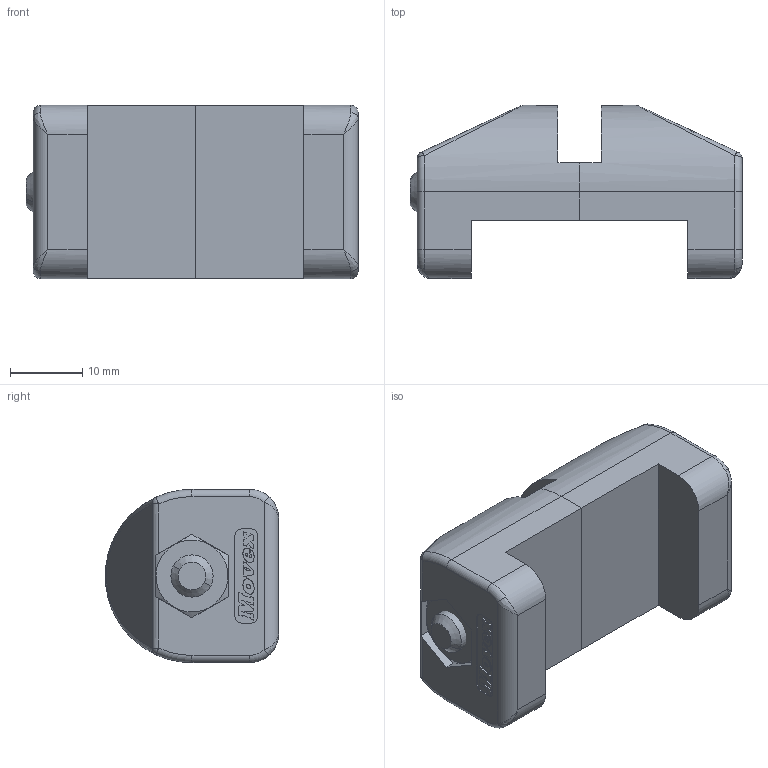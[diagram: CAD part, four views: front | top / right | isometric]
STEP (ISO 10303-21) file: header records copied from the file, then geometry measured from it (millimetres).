
FILE_DESCRIPTION(('CATIA V5 STEP Exchange'),'2;1');
FILE_NAME('X:\CODICI MOVEX\3D per clienti\3D definitivi\Part 400\P42106_01.stp','2016-06-06T11:50:58+00:00',('none'),('none'),'Version 5-6 Release 2012','CATIA V5 STEP AP203','none');
FILE_SCHEMA(('CONFIG_CONTROL_DESIGN'));
Length unit declared in the file: millimetre
Products named in the file (1): P42106_01
Assembly tree (4 placements, depth 2):
  P42106_01
    #58  x2
    #17196
    #18074
Bounding box: 46 x 24 x 24 mm (x, y, z)
Volume: 14963.3 mm3; surface area: 7491.7 mm2
Topology: 4 solids, 4 shells, 1059 faces, 3070 edges, 2018 vertices
Faces by surface type: plane 949, cylinder 68, bspline 18, torus 12, cone 8, sphere 4
Entity records: 18563 total; most frequent: CARTESIAN_POINT 4335, ORIENTED_EDGE 3158, DIRECTION 2539, EDGE_CURVE 1579, VECTOR 1428, LINE 1428, VERTEX_POINT 1044, AXIS2_PLACEMENT_3D 602
